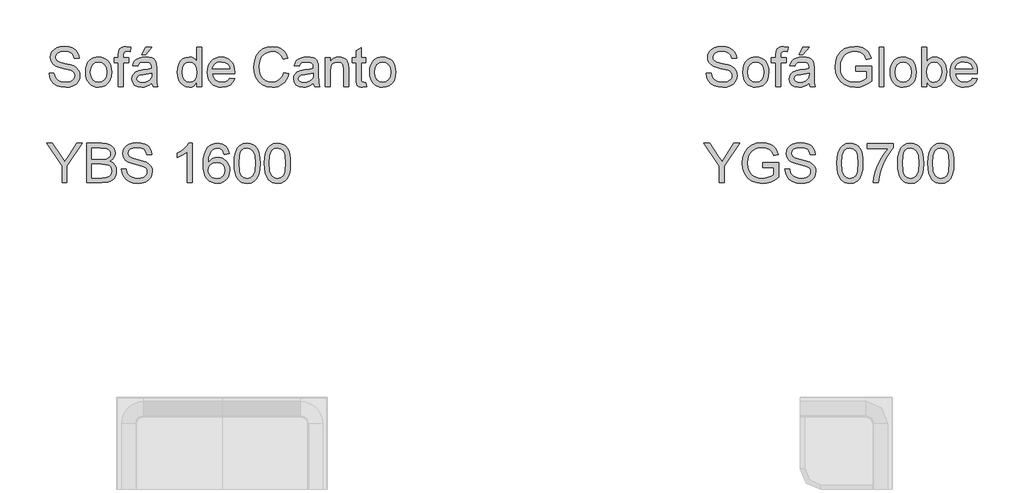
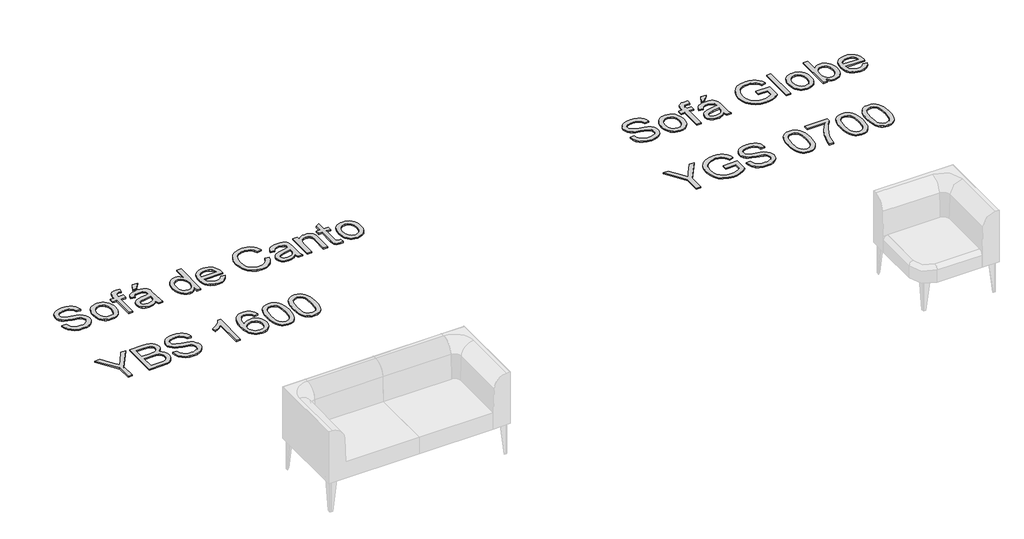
# One storey, part 21 of 26: 2 proxies.
"""IFC4 building model written with IfcOpenShell, lengths in millimetres."""

from ifc_helpers import new_model, si_unit, origin, origin_with_axes, place, context, project, spatial, polyline, outline, extrude, element, save

model = new_model("IFC4")

# Units and contexts
model_context = context("Model", 3, world=origin())
ifc_project = project(units=[si_unit("LENGTHUNIT", "METRE", prefix="MILLI")], contexts=[model_context])

# Site, building, storey
site = spatial("IfcSite", under=ifc_project)
building = spatial("IfcBuilding", under=site)
storey = spatial("IfcBuildingStorey", under=building, Name="Marelli - Linha YOUNG - Planta Baixa", Elevation=0.0)

# Proxies
placement = place(None, origin())
element("IfcBuildingElementProxy", 1, Name="300mm Arial", ObjectType="300mm Arial", at=placement, inside=storey, context=model_context, shape_type="SweptSolid", body=[
    extrude(outline(polyline([(39585.7785887, 188.9537033), (39623.449705, 188.9537033), (39627.7723184, 168.0488089), (39635.5898108, 151.2457988), (39647.7850989, 137.9100765), (39665.2410996, 127.4070455), (39686.5782553, 120.5920316), (39710.4170086, 118.3203602), (39731.4046764, 120.0402086), (39749.7803821, 125.1997535), (39764.6704059, 133.3667338), (39775.201028, 144.1088881), (39781.4642189, 156.442132), (39783.5519493, 169.3823812), (39781.9884508, 181.9915366), (39777.2979553, 192.8900407), (39767.7698117, 202.1882581), (39751.6933685, 209.9965534), (39696.842163, 224.3807394), (39660.8357127, 233.8996861), (39637.7971028, 242.9587802), (39619.0443181, 255.6323149), (39605.754581, 270.9913882), (39597.835921, 288.7049063), (39595.1963677, 308.4417753), (39598.4613204, 330.505498), (39608.2561786, 351.0792986), (39624.3234247, 368.5169052), (39646.4055415, 381.1720458), (39672.9114392, 388.8699765), (39702.2500283, 391.4359535), (39734.0350327, 388.7504149), (39761.8469115, 380.6937992), (39784.6923834, 367.4316533), (39801.578167, 349.129524), (39812.265139, 326.9278456), (39816.514176, 301.9670522), (39778.8430597, 301.9670522), (39771.9268782, 324.4446421), (39757.505904, 340.6682381), (39734.9731318, 350.4906874), (39703.7215563, 353.7648371), (39671.7342168, 350.5274756), (39649.7900558, 340.8153909), (39637.098127, 326.5231754), (39632.867484, 309.5454213), (39635.8657223, 295.0692648), (39644.8604371, 283.4257997), (39666.1240164, 273.0147392), (39706.3703067, 262.3829495), (39747.9041839, 252.2845888), (39773.0305242, 243.473815), (39794.5056357, 229.8069989), (39809.4876299, 212.9396094), (39818.2892067, 193.0555876), (39821.2230656, 170.3388744), (39817.8477483, 147.1163234), (39807.7217963, 125.2733299), (39791.2590771, 106.47456), (39768.8734577, 92.3846796), (39741.9536927, 83.5831028), (39711.8885366, 80.6492439), (39674.9807754, 83.8130291), (39644.6029197, 93.3043846), (39620.4054814, 109.1600986), (39602.0389728, 131.4169593), (39590.2483549, 158.5298623), (39585.7785887, 188.9537033)])), origin_with_axes(), (0.0, 0.0, 1.0), 10.0),
    extrude(outline(polyline([(39863.6030714, 196.0170376), (39865.640218, 224.6796436), (39871.7516576, 249.378321), (39881.9373903, 270.11307), (39896.1974162, 286.8838904), (39910.554011, 297.6030521), (39926.400528, 305.2595961), (39943.736967, 309.8535225), (39962.5633281, 311.3848313), (39983.3463616, 309.5201294), (40002.1382337, 303.9260239), (40018.9389446, 294.6025145), (40033.7484942, 281.5496015), (40045.835717, 265.2087431), (40054.4694476, 246.0213978), (40059.6496859, 223.9875656), (40061.376432, 199.1072464), (40058.3230115, 161.049854), (40049.1627498, 132.0791469), (40034.1623614, 110.3833062), (40013.5885608, 94.1505132), (39989.1519993, 84.0245612), (39962.5633281, 80.6492439), (39941.476792, 82.507048), (39922.5101759, 88.0804602), (39905.6634798, 97.3694806), (39890.9367037, 110.3741091), (39878.9782395, 126.8736166), (39870.4364795, 146.6472739), (39865.3114234, 169.6950809), (39863.6030714, 196.0170376)]), holes=[polyline([(39901.2741877, 196.090614), (39905.6335894, 161.9971501), (39918.7117943, 137.7077414), (39938.393481, 123.1672055), (39962.5633281, 118.3203602), (39986.6228106, 123.1947967), (40006.2677091, 137.818106), (40019.3459141, 162.4294115), (40023.7053157, 197.2678364), (40019.3183229, 230.3680189), (40006.1573445, 254.3263339), (39986.4848548, 268.8668697), (39962.5633281, 273.713715), (39938.393481, 268.8852638), (39918.7117943, 254.3999103), (39905.6335894, 230.1656838), (39901.2741877, 196.090614)])]), origin_with_axes(), (0.0, 0.0, 1.0), 10.0),
    extrude(outline(polyline([(40113.1742169, 85.3581335), (40113.1742169, 269.0048255), (40080.2119902, 269.0048255), (40080.2119902, 306.6759418), (40113.1742169, 306.6759418), (40113.1742169, 328.9695907), (40117.1473425, 360.3867131), (40124.7257116, 372.913095), (40136.424359, 382.8275148), (40152.7951078, 389.2838438), (40174.3897809, 391.4359535), (40208.7499593, 387.3156751), (40203.2317294, 351.9990036), (40181.5266916, 353.7648371), (40167.206885, 352.2013387), (40157.798303, 347.5108432), (40152.5835757, 338.5529166), (40150.8453332, 324.1871247), (40150.8453332, 306.6759418), (40193.2253391, 306.6759418), (40193.2253391, 269.0048255), (40150.8453332, 269.0048255), (40150.8453332, 85.3581335), (40113.1742169, 85.3581335)])), origin_with_axes(), (0.0, 0.0, 1.0), 10.0),
    extrude(outline(polyline([(40367.454252, 113.6114707), (40349.4556254, 98.178821), (40330.9235699, 88.0804602), (40311.4350212, 82.507048), (40290.566915, 80.6492439), (40259.0854133, 85.1190102), (40235.8628623, 98.5283089), (40221.5430557, 118.8905773), (40216.7697868, 144.2192527), (40218.5724086, 159.8358434), (40223.9802739, 174.0176943), (40232.3219981, 186.1578001), (40242.9261966, 195.6491556), (40269.3033357, 208.0099907), (40301.8976805, 213.6753734), (40340.4149254, 219.6350617), (40367.2335228, 226.6248196), (40367.454252, 235.0125291), (40364.8606839, 251.8247363), (40357.0799797, 262.8244079), (40339.6791614, 270.9913882), (40315.4357379, 273.713715), (40292.9949362, 271.9018962), (40277.3231632, 266.4664397), (40266.6361912, 256.4140642), (40259.1497926, 240.7514882), (40221.4786763, 245.4603778), (40228.0177788, 266.0617695), (40237.7758487, 282.2485773), (40251.663394, 294.6278064), (40270.5909227, 303.8064622), (40293.7398972, 309.490239), (40320.2917802, 311.3848313), (40345.7584113, 309.7109682), (40365.9459358, 304.689379), (40381.1670534, 297.138601), (40391.7344637, 287.8771718), (40398.7426157, 276.4268447), (40403.2859583, 262.3093731), (40405.1253683, 229.3471464), (40405.1253683, 182.4789802), (40407.0383547, 117.0327733), (40414.5431474, 85.3581335), (40376.8720311, 85.3581335), (40367.454252, 113.6114707)]), holes=[polyline([(40367.454252, 188.9537033), (40306.6801464, 177.4022087), (40274.2697426, 171.2953675), (40259.591251, 161.3625537), (40254.4409031, 146.8680031), (40257.2460033, 135.6659963), (40265.6613039, 126.4873405), (40279.502864, 120.3621053), (40298.5867425, 118.3203602), (40318.8202522, 120.5736375), (40336.6993172, 127.3334691), (40351.1938678, 137.2938741), (40361.2738345, 149.1488714), (40365.7436007, 161.3625537), (40367.2335228, 178.2851254), (40367.454252, 188.9537033)])]), origin_with_axes(), (0.0, 0.0, 1.0), 10.0),
    extrude(outline(polyline([(40292.1120194, 330.2203895), (40320.3653566, 386.7270639), (40367.454252, 386.7270639), (40320.3653566, 330.2203895), (40292.1120194, 330.2203895)])), origin_with_axes(), (0.0, 0.0, 1.0), 10.0),
    extrude(outline(polyline([(40711.2031883, 85.3581335), (40711.2031883, 120.8955342), (40699.9322037, 103.2877822), (40686.2791831, 90.7108165), (40670.2441267, 83.1646371), (40651.8270343, 80.6492439), (40627.4732462, 84.2912757), (40605.1795973, 95.2173709), (40586.3072509, 112.6641746), (40572.2173705, 135.8683314), (40563.4433849, 163.8917424), (40560.5187231, 195.7963084), (40563.2134587, 227.3054013), (40571.2976655, 255.7610736), (40584.7621466, 279.5446446), (40603.5977047, 297.0374335), (40626.3787973, 307.7979819), (40651.6798815, 311.3848313), (40670.1107694, 308.8188544), (40686.4079418, 301.1209236), (40700.2219107, 289.3211086), (40711.2031883, 274.449479), (40711.2031883, 386.7270639), (40748.8743046, 386.7270639), (40748.8743046, 85.3581335), (40711.2031883, 85.3581335)]), holes=[polyline([(40598.1898394, 195.9434612), (40602.4388764, 161.8683914), (40615.1859876, 137.634165), (40633.708846, 123.1488114), (40655.285125, 118.3203602), (40676.852207, 122.9280822), (40694.9060159, 136.7512482), (40707.1288952, 160.0473755), (40711.2031883, 193.0739817), (40707.0553188, 229.1815995), (40694.6117103, 254.2159693), (40676.0980489, 268.8392786), (40653.7400207, 273.713715), (40631.9430124, 269.0324166), (40614.0823416, 254.9885214), (40602.1629649, 230.8646596), (40598.1898394, 195.9434612)])]), origin_with_axes(), (0.0, 0.0, 1.0), 10.0),
    extrude(outline(polyline([(40960.3328754, 151.282587), (40997.2682277, 146.5736975), (40983.9600966, 118.7434245), (40962.7241084, 97.9396977), (40934.0385098, 84.9718574), (40898.3815474, 80.6492439), (40875.0072452, 82.5139458), (40854.1805257, 88.1080514), (40835.9013891, 97.4315607), (40820.1698353, 110.4844737), (40807.5192932, 126.903507), (40798.4831917, 146.3253771), (40793.0615307, 168.750084), (40791.2543104, 194.1776276), (40793.0799248, 220.4673947), (40798.5567681, 243.6393619), (40807.6848401, 263.6935292), (40820.4641409, 280.6298965), (40836.154308, 294.0851805), (40854.0149788, 303.6960976), (40874.0461535, 309.4626479), (40896.2478319, 311.3848313), (40917.7344397, 309.4672464), (40937.1655068, 303.7144917), (40954.5410333, 294.1265672), (40969.8610191, 280.7034729), (40982.3667077, 263.8038938), (40991.2993424, 243.7865147), (40996.6589232, 220.6513357), (40998.4454501, 194.3983568), (40998.2247209, 184.2448138), (40828.9254268, 184.2448138), (40835.4461351, 156.0466588), (40850.5936763, 135.3165084), (40872.4550638, 122.5693973), (40899.1173114, 118.3203602), (40919.1668802, 120.2885289), (40936.0526637, 126.1930349), (40949.7746622, 136.4017603), (40960.3328754, 151.282587)]), holes=[polyline([(40828.9254268, 221.9159301), (40960.7743338, 221.9159301), (40955.6791682, 241.818346), (40945.691172, 256.0553792), (40923.7286169, 269.2991311), (40896.1006791, 273.713715), (40870.7076244, 270.1912449), (40849.7107595, 259.6238346), (40835.1150413, 243.1519182), (40828.9254268, 221.9159301)])]), origin_with_axes(), (0.0, 0.0, 1.0), 10.0),
    extrude(outline(polyline([(41370.4477237, 192.4853705), (41408.11884, 182.7732858), (41400.664631, 159.3461005), (41390.7364157, 138.8757667), (41378.3341939, 121.3622845), (41363.4579657, 106.8056538), (41346.4434235, 95.3622245), (41327.6262594, 87.1883464), (41307.0064736, 82.2840195), (41284.584066, 80.6492439), (41240.888882, 85.5972568), (41206.1884128, 100.4412953), (41179.5905446, 124.6663247), (41160.2031634, 157.7573101), (41148.3665602, 196.6608311), (41144.4210258, 238.3234671), (41148.881595, 282.2669714), (41162.2633026, 320.2139992), (41183.8671728, 350.9597369), (41212.9942297, 373.2993711), (41247.5383491, 386.9018079), (41285.3934064, 391.4359535), (41326.6973574, 385.5682356), (41344.6660936, 378.2335884), (41360.8460036, 367.9650822), (41374.9703729, 355.03403), (41386.7724872, 339.7117449), (41403.4099504, 301.8934758), (41365.7388341, 292.9171551), (41352.6790233, 320.3887431), (41334.8367465, 339.2334983), (41311.9912746, 350.1320024), (41283.9218784, 353.7648371), (41251.5666569, 349.7365293), (41224.9871828, 337.6516058), (41204.8180524, 318.7792594), (41191.6938622, 294.3886831), (41184.4925721, 266.8159276), (41182.0921421, 238.3970435), (41184.9340305, 203.5954067), (41193.4596958, 173.5026595), (41207.9910346, 149.2684331), (41228.8499437, 132.0423587), (41253.8567223, 121.7508598), (41280.8316696, 118.3203602), (41312.2763832, 122.9924616), (41338.4787783, 137.0087656), (41358.2616326, 160.2221195), (41370.4477237, 192.4853705)])), origin_with_axes(), (0.0, 0.0, 1.0), 10.0),
    extrude(outline(polyline([(41596.4744215, 113.6114707), (41578.4757949, 98.178821), (41559.9437394, 88.0804602), (41540.4551907, 82.507048), (41519.5870845, 80.6492439), (41488.1055828, 85.1190102), (41464.8830318, 98.5283089), (41450.5632252, 118.8905773), (41445.7899563, 144.2192527), (41447.592578, 159.8358434), (41453.0004434, 174.0176943), (41461.3421676, 186.1578001), (41471.9463661, 195.6491556), (41498.3235052, 208.0099907), (41530.91785, 213.6753734), (41569.4350948, 219.6350617), (41596.2536923, 226.6248196), (41596.4744215, 235.0125291), (41593.8808534, 251.8247363), (41586.1001492, 262.8244079), (41568.6993309, 270.9913882), (41544.4559074, 273.713715), (41522.0151057, 271.9018962), (41506.3433327, 266.4664397), (41495.6563607, 256.4140642), (41488.1699621, 240.7514882), (41450.4988458, 245.4603778), (41457.0379483, 266.0617695), (41466.7960182, 282.2485773), (41480.6835635, 294.6278064), (41499.6110922, 303.8064622), (41522.7600667, 309.490239), (41549.3119497, 311.3848313), (41574.7785808, 309.7109682), (41594.9661053, 304.689379), (41610.1872229, 297.138601), (41620.7546332, 287.8771718), (41627.7627852, 276.4268447), (41632.3061278, 262.3093731), (41634.1455378, 229.3471464), (41634.1455378, 182.4789802), (41636.0585242, 117.0327733), (41643.5633169, 85.3581335), (41605.8922006, 85.3581335), (41596.4744215, 113.6114707)]), holes=[polyline([(41596.4744215, 188.9537033), (41535.7003159, 177.4022087), (41503.2899121, 171.2953675), (41488.6114205, 161.3625537), (41483.4610726, 146.8680031), (41486.2661728, 135.6659963), (41494.6814734, 126.4873405), (41508.5230335, 120.3621053), (41527.606912, 118.3203602), (41547.8404217, 120.5736375), (41565.7194867, 127.3334691), (41580.2140373, 137.2938741), (41590.294004, 149.1488714), (41594.7637702, 161.3625537), (41596.2536923, 178.2851254), (41596.4744215, 188.9537033)])]), origin_with_axes(), (0.0, 0.0, 1.0), 10.0),
    extrude(outline(polyline([(41685.9433227, 85.3581335), (41685.9433227, 306.6759418), (41723.614439, 306.6759418), (41723.614439, 275.7738542), (41736.701841, 291.3536567), (41752.4195992, 302.482087), (41770.7677138, 309.1591452), (41791.7461845, 311.3848313), (41810.3150282, 309.5914066), (41827.3203735, 304.2111324), (41841.5022244, 295.9153934), (41851.6005851, 285.3755742), (41862.8945624, 257.67406), (41864.8811252, 221.2537425), (41864.8811252, 85.3581335), (41827.2100089, 85.3581335), (41827.2100089, 216.176971), (41822.8690013, 249.5070797), (41816.8633278, 259.4306965), (41807.5283221, 267.1286273), (41795.5629602, 272.0674431), (41781.6662179, 273.713715), (41759.6024952, 270.0165009), (41740.7945282, 258.9248588), (41733.2782392, 249.8703632), (41727.9094613, 237.4957326), (41723.614439, 202.7860663), (41723.614439, 85.3581335), (41685.9433227, 85.3581335)])), origin_with_axes(), (0.0, 0.0, 1.0), 10.0),
    extrude(outline(polyline([(41996.7300322, 116.7752559), (42001.4389218, 84.2544875), (41973.259161, 80.6492439), (41955.1777609, 82.2127424), (41941.6948858, 86.9032378), (41932.1667421, 94.1321191), (41925.9495364, 103.3107748), (41922.5282338, 119.0745183), (41921.3877996, 146.0586627), (41921.3877996, 269.0048255), (41893.1344624, 269.0048255), (41893.1344624, 306.6759418), (41921.3877996, 306.6759418), (41921.3877996, 360.4602895), (41959.0589159, 382.6067856), (41959.0589159, 306.6759418), (41996.7300322, 306.6759418), (41996.7300322, 269.0048255), (41959.0589159, 269.0048255), (41959.0589159, 147.1623087), (41961.0454787, 127.7381393), (41967.4834136, 120.858746), (41980.3224953, 118.3203602), (41996.7300322, 116.7752559)])), origin_with_axes(), (0.0, 0.0, 1.0), 10.0),
    extrude(outline(polyline([(42024.9833695, 196.0170376), (42027.020516, 224.6796436), (42033.1319557, 249.378321), (42043.3176884, 270.11307), (42057.5777142, 286.8838904), (42071.9343091, 297.6030521), (42087.780826, 305.2595961), (42105.1172651, 309.8535225), (42123.9436262, 311.3848313), (42144.7266596, 309.5201294), (42163.5185318, 303.9260239), (42180.3192427, 294.6025145), (42195.1287922, 281.5496015), (42207.216015, 265.2087431), (42215.8497456, 246.0213978), (42221.029984, 223.9875656), (42222.7567301, 199.1072464), (42219.7033095, 161.049854), (42210.5430478, 132.0791469), (42195.5426595, 110.3833062), (42174.9688589, 94.1505132), (42150.5322974, 84.0245612), (42123.9436262, 80.6492439), (42102.8570901, 82.507048), (42083.890474, 88.0804602), (42067.0437778, 97.3694806), (42052.3170017, 110.3741091), (42040.3585376, 126.8736166), (42031.8167775, 146.6472739), (42026.6917215, 169.6950809), (42024.9833695, 196.0170376)]), holes=[polyline([(42062.6544858, 196.090614), (42067.0138874, 161.9971501), (42080.0920924, 137.7077414), (42099.7737791, 123.1672055), (42123.9436262, 118.3203602), (42148.0031087, 123.1947967), (42167.6480072, 137.818106), (42180.7262121, 162.4294115), (42185.0856138, 197.2678364), (42180.698621, 230.3680189), (42167.5376426, 254.3263339), (42147.8651529, 268.8668697), (42123.9436262, 273.713715), (42099.7737791, 268.8852638), (42080.0920924, 254.3999103), (42067.0138874, 230.1656838), (42062.6544858, 196.090614)])]), origin_with_axes(), (0.0, 0.0, 1.0), 10.0),
    extrude(outline(polyline([(39684.665269, -646.4907736), (39684.665269, -518.8357213), (39566.9430305, -345.1218432), (39611.3831755, -345.1218432), (39674.2174203, -437.9016823), (39706.3703067, -485.2113069), (39738.5967694, -434.517168), (39795.6184787, -345.1218432), (39840.0586237, -345.1218432), (39722.3363853, -518.8357213), (39722.3363853, -646.4907736), (39684.665269, -646.4907736)])), origin_with_axes(), (0.0, 0.0, 1.0), 10.0),
    extrude(outline(polyline([(39873.0208505, -646.4907736), (39873.0208505, -345.1218432), (39988.0207622, -345.1218432), (40019.6494167, -347.3383322), (40044.3434956, -353.9877992), (40063.2710243, -365.2357912), (40077.600028, -381.2478551), (40086.6223339, -400.0834132), (40089.6297692, -419.8018882), (40087.1005805, -437.9476676), (40079.5130144, -455.0081951), (40066.8118885, -469.9350071), (40048.9420206, -481.6796398), (40070.2883734, -492.8264642), (40086.0613139, -509.7858242), (40095.8009897, -531.4356796), (40099.0475483, -556.6539904), (40096.8310593, -577.6692494), (40090.1815922, -597.1577981), (40080.2579754, -613.7308819), (40068.2190371, -625.9997465), (40053.4761662, -634.8840967), (40035.4407514, -641.3036375), (39987.1378454, -646.4907736), (39873.0208505, -646.4907736)]), holes=[polyline([(39910.6919668, -467.5529711), (39979.4858999, -467.5529711), (40019.6586138, -464.3156096), (40033.720903, -458.7330003), (40043.8284608, -450.372882), (40049.9261049, -439.3640133), (40051.9586529, -425.8351529), (40050.0640607, -412.7017657), (40044.3802838, -401.2606356), (40035.1648399, -392.3303002), (40022.6752461, -386.7292968), (39974.2619756, -382.7929595), (39910.6919668, -382.7929595), (39910.6919668, -467.5529711)]), polyline([(39910.6919668, -608.8196573), (39987.9471858, -608.8196573), (40015.9062174, -607.3481293), (40039.5610297, -599.1443608), (40055.2328027, -582.40573), (40059.8405247, -570.5783239), (40061.376432, -557.0218724), (40059.5738102, -541.276523), (40054.1659449, -527.7384656), (40044.7205747, -517.1526611), (40030.8054382, -510.2640708), (40011.0961603, -506.4840833), (39984.2683658, -505.2240875), (39910.6919668, -505.2240875), (39910.6919668, -608.8196573)])]), origin_with_axes(), (0.0, 0.0, 1.0), 10.0),
    extrude(outline(polyline([(40136.7186646, -542.8952038), (40174.3897809, -542.8952038), (40178.7123944, -563.8000981), (40186.5298868, -580.6031083), (40198.7251749, -593.9388306), (40216.1811756, -604.4418616), (40237.5183313, -611.2568755), (40261.3570846, -613.5285468), (40282.3447524, -611.8086985), (40300.7204581, -606.6491535), (40315.6104818, -598.4821732), (40326.1411039, -587.740019), (40332.4042949, -575.4067751), (40334.4920252, -562.4665259), (40332.9285268, -549.8573705), (40328.2380313, -538.9588664), (40318.7098876, -529.660649), (40302.6334445, -521.8523536), (40247.782239, -507.4681676), (40211.7757887, -497.949221), (40188.7371787, -488.8901269), (40169.984394, -476.2165921), (40156.694657, -460.8575188), (40148.775997, -443.1440008), (40146.1364437, -423.4071317), (40149.4013964, -401.3434091), (40159.1962545, -380.7696085), (40175.2635007, -363.3320019), (40197.3456174, -350.6768613), (40223.8515152, -342.9789305), (40253.1901043, -340.4129536), (40284.9751087, -343.0984922), (40312.7869875, -351.1551079), (40335.6324594, -364.4172538), (40352.518243, -382.7193831), (40363.205215, -404.9210615), (40367.454252, -429.8818548), (40329.7831357, -429.8818548), (40322.8669542, -407.4042649), (40308.44598, -391.180669), (40285.9132078, -381.3582197), (40254.6616323, -378.0840699), (40222.6742928, -381.3214315), (40200.7301318, -391.0335162), (40188.038203, -405.3257317), (40183.80756, -422.3034857), (40186.8057983, -436.7796423), (40195.8005131, -448.4231074), (40217.0640924, -458.8341679), (40257.3103826, -469.4659575), (40298.8442599, -479.5643183), (40323.9706002, -488.3750921), (40345.4457116, -502.0419082), (40360.4277059, -518.9092977), (40369.2292826, -538.7933195), (40372.1631415, -561.5100327), (40368.7878242, -584.7325837), (40358.6618723, -606.5755771), (40342.199153, -625.3743471), (40319.8135336, -639.4642275), (40292.8937686, -648.2658042), (40262.8286126, -651.1996631), (40225.9208514, -648.035878), (40195.5429957, -638.5445225), (40171.3455574, -622.6888085), (40152.9790488, -600.4319478), (40141.1884309, -573.3190448), (40136.7186646, -542.8952038)])), origin_with_axes(), (0.0, 0.0, 1.0), 10.0),
    extrude(outline(polyline([(40673.532072, -646.4907736), (40635.8609557, -646.4907736), (40635.8609557, -411.6349079), (40600.1764022, -437.0555537), (40560.5187231, -456.0750529), (40560.5187231, -420.4640758), (40590.1056325, -404.3692385), (40615.7378105, -385.2209806), (40635.9437291, -364.8587122), (40649.2518603, -345.1218432), (40673.532072, -345.1218432), (40673.532072, -646.4907736)])), origin_with_axes(), (0.0, 0.0, 1.0), 10.0),
    extrude(outline(polyline([(40956.0654443, -425.1729653), (40918.394328, -429.8818548), (40912.3242751, -411.2118436), (40904.1205066, -398.4647325), (40887.0323879, -386.7109027), (40866.3758139, -382.7929595), (40848.8646309, -385.0738278), (40832.3835175, -391.9164329), (40818.2292577, -406.3282101), (40806.668566, -426.1662467), (40798.8602707, -454.2264459), (40795.9632, -493.3047108), (40811.0739529, -475.6739662), (40829.1829442, -463.2487518), (40849.2784981, -455.8819149), (40870.3489394, -453.4263025), (40888.4487336, -455.1047641), (40905.1505762, -460.1401489), (40920.4544672, -468.532457), (40934.3604066, -480.2816882), (40945.9164997, -494.6888668), (40954.170852, -511.0550171), (40959.1234634, -529.380139), (40960.7743338, -549.6642325), (40957.665731, -576.6391798), (40948.3399224, -601.6459584), (40933.5694603, -622.8543554), (40914.1268968, -638.4341579), (40890.8951488, -648.0082868), (40864.7571331, -651.1996631), (40842.3002365, -649.0843417), (40822.0184423, -642.7383773), (40803.9117503, -632.1617699), (40787.9801607, -617.3545196), (40774.991627, -597.6912269), (40765.7141029, -572.5464926), (40760.1475885, -541.9203165), (40758.2920837, -505.8126986), (40760.3522229, -465.3318836), (40766.5326404, -430.7831657), (40776.8333362, -402.166545), (40791.2543104, -379.4820215), (40806.8846967, -364.4494435), (40825.0074835, -353.7118877), (40845.6226708, -347.2693543), (40868.7302586, -345.1218432), (40901.7844559, -350.437738), (40928.2535655, -366.3854225), (40946.794818, -391.7140978), (40956.0654443, -425.1729653)]), holes=[polyline([(40795.9632, -549.0756213), (40798.1429008, -565.7682668), (40804.6820033, -581.7067543), (40814.8355463, -595.4103586), (40827.858569, -605.3983547), (40843.5763272, -611.4959988), (40861.8140771, -613.5285468), (40886.6737029, -609.316298), (40906.2174339, -596.6795515), (40918.8817716, -576.8139237), (40923.1032175, -550.9150313), (40918.9369539, -526.0554054), (40906.4381631, -507.1002856), (40886.5633383, -495.0981355), (40860.2689727, -491.0974188), (40835.4461351, -495.0981355), (40814.6883935, -507.1002856), (40800.6444984, -525.5955529), (40795.9632, -549.0756213)])]), origin_with_axes(), (0.0, 0.0, 1.0), 10.0),
    extrude(outline(polyline([(40993.7365606, -498.2343295), (40996.5048726, -449.9958029), (41004.8098086, -411.5245433), (41018.5685953, -382.2319394), (41037.698459, -361.5293801), (41062.3373556, -349.2237274), (41092.6232409, -345.1218432), (41115.8365948, -347.5498643), (41136.6219275, -354.8339278), (41154.0043518, -366.6889251), (41167.0089803, -382.8297477), (41176.8314296, -403.1184397), (41184.6673161, -427.4170455), (41189.7992699, -458.2731478), (41191.5099212, -498.2343295), (41188.7692003, -546.1969447), (41180.5470377, -584.5762338), (41166.8710246, -613.8964288), (41147.768752, -634.6817616), (41123.074673, -647.0701877), (41092.6232409, -651.1996631), (41071.8746964, -649.4062384), (41053.4805966, -644.0259642), (41037.4409416, -635.0588406), (41023.7557314, -622.5048675), (41010.6223442, -599.8111469), (41001.2413533, -571.5348171), (40995.6127588, -537.675878), (40993.7365606, -498.2343295)]), holes=[polyline([(41031.4076769, -498.1607531), (41035.8222608, -557.4173455), (41041.3404908, -577.6853442), (41049.0660127, -591.7131445), (41068.7844876, -608.0746963), (41092.6232409, -613.5285468), (41116.4619942, -608.0563022), (41136.1804691, -591.6395681), (41143.905991, -577.5887752), (41149.424221, -557.325375), (41153.8388049, -498.1607531), (41149.5713737, -440.237733), (41144.2370848, -420.0364129), (41136.7690803, -405.6752196), (41117.0873936, -388.5135245), (41092.1817825, -382.7929595), (41068.6005466, -387.8329428), (41049.6546239, -402.9528928), (41041.6715846, -418.5878776), (41035.9694136, -439.6675159), (41031.4076769, -498.1607531)])]), origin_with_axes(), (0.0, 0.0, 1.0), 10.0),
    extrude(outline(polyline([(41224.472148, -498.2343295), (41227.24046, -449.9958029), (41235.545396, -411.5245433), (41249.3041826, -382.2319394), (41268.4340464, -361.5293801), (41293.072943, -349.2237274), (41323.3588283, -345.1218432), (41346.5721822, -347.5498643), (41367.3575149, -354.8339278), (41384.7399392, -366.6889251), (41397.7445677, -382.8297477), (41407.567017, -403.1184397), (41415.4029035, -427.4170455), (41420.5348573, -458.2731478), (41422.2455086, -498.2343295), (41419.5047877, -546.1969447), (41411.2826251, -584.5762338), (41397.6066119, -613.8964288), (41378.5043393, -634.6817616), (41353.8102604, -647.0701877), (41323.3588283, -651.1996631), (41302.6102837, -649.4062384), (41284.216184, -644.0259642), (41268.176529, -635.0588406), (41254.4913188, -622.5048675), (41241.3579315, -599.8111469), (41231.9769407, -571.5348171), (41226.3483461, -537.675878), (41224.472148, -498.2343295)]), holes=[polyline([(41262.1432643, -498.1607531), (41266.5578482, -557.4173455), (41272.0760781, -577.6853442), (41279.8016, -591.7131445), (41299.520075, -608.0746963), (41323.3588283, -613.5285468), (41347.1975816, -608.0563022), (41366.9160565, -591.6395681), (41374.6415784, -577.5887752), (41380.1598083, -557.325375), (41384.5743923, -498.1607531), (41380.3069611, -440.237733), (41374.9726722, -420.0364129), (41367.5046677, -405.6752196), (41347.822981, -388.5135245), (41322.9173699, -382.7929595), (41299.336134, -387.8329428), (41280.3902112, -402.9528928), (41272.4071719, -418.5878776), (41266.705001, -439.6675159), (41262.1432643, -498.1607531)])]), origin_with_axes(), (0.0, 0.0, 1.0), 10.0),
])
element("IfcBuildingElementProxy", 2, Name="300mm Arial", ObjectType="300mm Arial", at=placement, inside=storey, context=model_context, shape_type="SweptSolid", body=[
    extrude(outline(polyline([(44585.7785887, 188.9537033), (44623.449705, 188.9537033), (44627.7723184, 168.0488089), (44635.5898108, 151.2457988), (44647.7850989, 137.9100765), (44665.2410996, 127.4070455), (44686.5782553, 120.5920316), (44710.4170086, 118.3203602), (44731.4046764, 120.0402086), (44749.7803821, 125.1997535), (44764.6704059, 133.3667338), (44775.201028, 144.1088881), (44781.4642189, 156.442132), (44783.5519493, 169.3823812), (44781.9884508, 181.9915366), (44777.2979553, 192.8900407), (44767.7698117, 202.1882581), (44751.6933685, 209.9965534), (44696.842163, 224.3807394), (44660.8357127, 233.8996861), (44637.7971028, 242.9587802), (44619.0443181, 255.6323149), (44605.754581, 270.9913882), (44597.835921, 288.7049063), (44595.1963677, 308.4417753), (44598.4613204, 330.505498), (44608.2561786, 351.0792986), (44624.3234247, 368.5169052), (44646.4055415, 381.1720458), (44672.9114392, 388.8699765), (44702.2500283, 391.4359535), (44734.0350327, 388.7504149), (44761.8469115, 380.6937992), (44784.6923834, 367.4316533), (44801.578167, 349.129524), (44812.265139, 326.9278456), (44816.514176, 301.9670522), (44778.8430597, 301.9670522), (44771.9268782, 324.4446421), (44757.505904, 340.6682381), (44734.9731318, 350.4906874), (44703.7215563, 353.7648371), (44671.7342168, 350.5274756), (44649.7900558, 340.8153909), (44637.098127, 326.5231754), (44632.867484, 309.5454213), (44635.8657223, 295.0692648), (44644.8604371, 283.4257997), (44666.1240164, 273.0147392), (44706.3703067, 262.3829495), (44747.9041839, 252.2845888), (44773.0305242, 243.473815), (44794.5056357, 229.8069989), (44809.4876299, 212.9396094), (44818.2892067, 193.0555876), (44821.2230656, 170.3388744), (44817.8477483, 147.1163234), (44807.7217963, 125.2733299), (44791.2590771, 106.47456), (44768.8734577, 92.3846796), (44741.9536927, 83.5831028), (44711.8885366, 80.6492439), (44674.9807754, 83.8130291), (44644.6029197, 93.3043846), (44620.4054814, 109.1600986), (44602.0389728, 131.4169593), (44590.2483549, 158.5298623), (44585.7785887, 188.9537033)])), origin_with_axes(), (0.0, 0.0, 1.0), 10.0),
    extrude(outline(polyline([(44863.6030714, 196.0170376), (44865.640218, 224.6796436), (44871.7516576, 249.378321), (44881.9373903, 270.11307), (44896.1974162, 286.8838904), (44910.554011, 297.6030521), (44926.400528, 305.2595961), (44943.736967, 309.8535225), (44962.5633281, 311.3848313), (44983.3463616, 309.5201294), (45002.1382337, 303.9260239), (45018.9389446, 294.6025145), (45033.7484942, 281.5496015), (45045.835717, 265.2087431), (45054.4694476, 246.0213978), (45059.6496859, 223.9875656), (45061.376432, 199.1072464), (45058.3230115, 161.049854), (45049.1627498, 132.0791469), (45034.1623614, 110.3833062), (45013.5885608, 94.1505132), (44989.1519993, 84.0245612), (44962.5633281, 80.6492439), (44941.476792, 82.507048), (44922.5101759, 88.0804602), (44905.6634798, 97.3694806), (44890.9367037, 110.3741091), (44878.9782395, 126.8736166), (44870.4364795, 146.6472739), (44865.3114234, 169.6950809), (44863.6030714, 196.0170376)]), holes=[polyline([(44901.2741877, 196.090614), (44905.6335894, 161.9971501), (44918.7117943, 137.7077414), (44938.393481, 123.1672055), (44962.5633281, 118.3203602), (44986.6228106, 123.1947967), (45006.2677091, 137.818106), (45019.3459141, 162.4294115), (45023.7053157, 197.2678364), (45019.3183229, 230.3680189), (45006.1573445, 254.3263339), (44986.4848548, 268.8668697), (44962.5633281, 273.713715), (44938.393481, 268.8852638), (44918.7117943, 254.3999103), (44905.6335894, 230.1656838), (44901.2741877, 196.090614)])]), origin_with_axes(), (0.0, 0.0, 1.0), 10.0),
    extrude(outline(polyline([(45113.1742169, 85.3581335), (45113.1742169, 269.0048255), (45080.2119902, 269.0048255), (45080.2119902, 306.6759418), (45113.1742169, 306.6759418), (45113.1742169, 328.9695907), (45117.1473425, 360.3867131), (45124.7257116, 372.913095), (45136.424359, 382.8275148), (45152.7951078, 389.2838438), (45174.3897809, 391.4359535), (45208.7499593, 387.3156751), (45203.2317294, 351.9990036), (45181.5266916, 353.7648371), (45167.206885, 352.2013387), (45157.798303, 347.5108432), (45152.5835757, 338.5529166), (45150.8453332, 324.1871247), (45150.8453332, 306.6759418), (45193.2253391, 306.6759418), (45193.2253391, 269.0048255), (45150.8453332, 269.0048255), (45150.8453332, 85.3581335), (45113.1742169, 85.3581335)])), origin_with_axes(), (0.0, 0.0, 1.0), 10.0),
    extrude(outline(polyline([(45367.454252, 113.6114707), (45349.4556254, 98.178821), (45330.9235699, 88.0804602), (45311.4350212, 82.507048), (45290.566915, 80.6492439), (45259.0854133, 85.1190102), (45235.8628623, 98.5283089), (45221.5430557, 118.8905773), (45216.7697868, 144.2192527), (45218.5724086, 159.8358434), (45223.9802739, 174.0176943), (45232.3219981, 186.1578001), (45242.9261966, 195.6491556), (45269.3033357, 208.0099907), (45301.8976805, 213.6753734), (45340.4149254, 219.6350617), (45367.2335228, 226.6248196), (45367.454252, 235.0125291), (45364.8606839, 251.8247363), (45357.0799797, 262.8244079), (45339.6791614, 270.9913882), (45315.4357379, 273.713715), (45292.9949362, 271.9018962), (45277.3231632, 266.4664397), (45266.6361912, 256.4140642), (45259.1497926, 240.7514882), (45221.4786763, 245.4603778), (45228.0177788, 266.0617695), (45237.7758487, 282.2485773), (45251.663394, 294.6278064), (45270.5909227, 303.8064622), (45293.7398972, 309.490239), (45320.2917802, 311.3848313), (45345.7584113, 309.7109682), (45365.9459358, 304.689379), (45381.1670534, 297.138601), (45391.7344637, 287.8771718), (45398.7426157, 276.4268447), (45403.2859583, 262.3093731), (45405.1253683, 229.3471464), (45405.1253683, 182.4789802), (45407.0383547, 117.0327733), (45414.5431474, 85.3581335), (45376.8720311, 85.3581335), (45367.454252, 113.6114707)]), holes=[polyline([(45367.454252, 188.9537033), (45306.6801464, 177.4022087), (45274.2697426, 171.2953675), (45259.591251, 161.3625537), (45254.4409031, 146.8680031), (45257.2460033, 135.6659963), (45265.6613039, 126.4873405), (45279.502864, 120.3621053), (45298.5867425, 118.3203602), (45318.8202522, 120.5736375), (45336.6993172, 127.3334691), (45351.1938678, 137.2938741), (45361.2738345, 149.1488714), (45365.7436007, 161.3625537), (45367.2335228, 178.2851254), (45367.454252, 188.9537033)])]), origin_with_axes(), (0.0, 0.0, 1.0), 10.0),
    extrude(outline(polyline([(45292.1120194, 330.2203895), (45320.3653566, 386.7270639), (45367.454252, 386.7270639), (45320.3653566, 330.2203895), (45292.1120194, 330.2203895)])), origin_with_axes(), (0.0, 0.0, 1.0), 10.0),
    extrude(outline(polyline([(45720.6209674, 203.0803719), (45720.6209674, 240.7514882), (45843.0520954, 240.7514882), (45843.0520954, 128.1060213), (45813.299639, 107.4126591), (45782.6090836, 92.5686206), (45751.0540054, 83.6290881), (45718.707981, 80.6492439), (45676.4475368, 85.3857246), (45638.2521887, 99.5951667), (45606.5223666, 122.7809294), (45583.6585006, 154.4463722), (45569.8353346, 192.4301882), (45565.2276126, 234.5710707), (45569.8169405, 277.0154559), (45583.5849242, 316.498391), (45605.9613465, 349.6169677), (45636.3759905, 372.9682773), (45673.4217074, 386.8190344), (45715.6913486, 391.4359535), (45746.7221949, 388.7596119), (45774.6260443, 380.7305874), (45798.1245067, 367.928294), (45815.9391923, 350.9321458), (45829.1185648, 328.9236054), (45838.7110878, 301.0841354), (45803.9830275, 291.2984744), (45796.2299144, 311.1549051), (45786.8029383, 326.1368993), (45774.3317387, 337.4308766), (45757.4459551, 346.2232562), (45737.3136129, 351.8794419), (45715.1027374, 353.7648371), (45689.1026774, 351.7322891), (45666.8734079, 345.6346451), (45648.4977022, 336.2352601), (45634.0583339, 324.2974893), (45614.6709528, 295.2715999), (45605.8417849, 266.8343217), (45602.8987289, 236.1161751), (45606.4395931, 200.0913307), (45617.0621857, 170.449239), (45634.44461, 147.401432), (45658.2649692, 131.1594419), (45686.1412274, 121.5301306), (45715.6913486, 118.3203602), (45741.7833791, 120.7391844), (45767.2316162, 127.9956567), (45789.332127, 137.9928499), (45805.3809791, 148.6338366), (45805.3809791, 203.0803719), (45720.6209674, 203.0803719)])), origin_with_axes(), (0.0, 0.0, 1.0), 10.0),
    extrude(outline(polyline([(45899.5587698, 85.3581335), (45899.5587698, 386.7270639), (45937.2298861, 386.7270639), (45937.2298861, 85.3581335), (45899.5587698, 85.3581335)])), origin_with_axes(), (0.0, 0.0, 1.0), 10.0),
    extrude(outline(polyline([(45984.3187815, 196.0170376), (45986.3559281, 224.6796436), (45992.4673677, 249.378321), (46002.6531005, 270.11307), (46016.9131263, 286.8838904), (46031.2697212, 297.6030521), (46047.1162381, 305.2595961), (46064.4526771, 309.8535225), (46083.2790382, 311.3848313), (46104.0620717, 309.5201294), (46122.8539439, 303.9260239), (46139.6546547, 294.6025145), (46154.4642043, 281.5496015), (46166.5514271, 265.2087431), (46175.1851577, 246.0213978), (46180.365396, 223.9875656), (46182.0921421, 199.1072464), (46179.0387216, 161.049854), (46169.8784599, 132.0791469), (46154.8780715, 110.3833062), (46134.3042709, 94.1505132), (46109.8677094, 84.0245612), (46083.2790382, 80.6492439), (46062.1925021, 82.507048), (46043.225886, 88.0804602), (46026.3791899, 97.3694806), (46011.6524138, 110.3741091), (45999.6939497, 126.8736166), (45991.1521896, 146.6472739), (45986.0271335, 169.6950809), (45984.3187815, 196.0170376)]), holes=[polyline([(46021.9898978, 196.090614), (46026.3492995, 161.9971501), (46039.4275044, 137.7077414), (46059.1091911, 123.1672055), (46083.2790382, 118.3203602), (46107.3385207, 123.1947967), (46126.9834192, 137.818106), (46140.0616242, 162.4294115), (46144.4210258, 197.2678364), (46140.034033, 230.3680189), (46126.8730546, 254.3263339), (46107.200565, 268.8668697), (46083.2790382, 273.713715), (46059.1091911, 268.8852638), (46039.4275044, 254.3999103), (46026.3492995, 230.1656838), (46021.9898978, 196.090614)])]), origin_with_axes(), (0.0, 0.0, 1.0), 10.0),
    extrude(outline(polyline([(46262.1432643, 85.3581335), (46224.472148, 85.3581335), (46224.472148, 386.7270639), (46262.1432643, 386.7270639), (46262.1432643, 274.9645138), (46274.5316905, 290.8984027), (46288.5204033, 302.2797519), (46304.1094029, 309.1085615), (46321.2986891, 311.3848313), (46340.7044643, 309.3338892), (46359.0433818, 303.1810628), (46375.2669778, 293.3126283), (46388.3267886, 280.1148617), (46398.5631051, 263.7165218), (46406.3162182, 244.2463672), (46411.1998517, 222.5137383), (46412.8277295, 199.3279756), (46411.1423701, 172.5737575), (46406.0862919, 149.0385068), (46397.659495, 128.7222236), (46385.8619793, 111.6249079), (46371.7008217, 98.0730549), (46356.1830993, 88.3931599), (46339.308812, 82.5852229), (46321.0779599, 80.6492439), (46303.3230551, 83.146243), (46287.5823042, 90.6372401), (46273.8557073, 103.1222353), (46262.1432643, 120.6012286), (46262.1432643, 85.3581335)]), holes=[polyline([(46262.1432643, 197.562142), (46264.7184382, 166.1450196), (46272.4439601, 144.8814403), (46281.5720321, 133.2609678), (46292.1808292, 124.9606302), (46304.2703512, 119.9804277), (46317.8405983, 118.3203602), (46339.5824243, 123.2131908), (46358.160465, 137.8916824), (46370.9075761, 162.2638646), (46375.1566132, 196.2377668), (46371.0823201, 230.7083098), (46358.8594408, 254.8045804), (46340.8608142, 268.9864314), (46319.4592791, 273.713715), (46297.7174532, 268.8208845), (46279.1394125, 254.1423929), (46266.3923013, 230.2116691), (46262.1432643, 197.562142)])]), origin_with_axes(), (0.0, 0.0, 1.0), 10.0),
    extrude(outline(polyline([(46610.1596317, 151.282587), (46647.094984, 146.5736975), (46633.7868529, 118.7434245), (46612.5508647, 97.9396977), (46583.8652661, 84.9718574), (46548.2083037, 80.6492439), (46524.8340015, 82.5139458), (46504.007282, 88.1080514), (46485.7281454, 97.4315607), (46469.9965915, 110.4844737), (46457.3460494, 126.903507), (46448.3099479, 146.3253771), (46442.888287, 168.750084), (46441.0810667, 194.1776276), (46442.9066811, 220.4673947), (46448.3835243, 243.6393619), (46457.5115963, 263.6935292), (46470.2908971, 280.6298965), (46485.9810642, 294.0851805), (46503.8417351, 303.6960976), (46523.8729097, 309.4626479), (46546.0745882, 311.3848313), (46567.5611959, 309.4672464), (46586.9922631, 303.7144917), (46604.3677895, 294.1265672), (46619.6877754, 280.7034729), (46632.193464, 263.8038938), (46641.1260987, 243.7865147), (46646.4856795, 220.6513357), (46648.2722064, 194.3983568), (46648.0514772, 184.2448138), (46478.752183, 184.2448138), (46485.2728914, 156.0466588), (46500.4204325, 135.3165084), (46522.2818201, 122.5693973), (46548.9440677, 118.3203602), (46568.9936365, 120.2885289), (46585.87942, 126.1930349), (46599.6014184, 136.4017603), (46610.1596317, 151.282587)]), holes=[polyline([(46478.752183, 221.9159301), (46610.6010901, 221.9159301), (46605.5059245, 241.818346), (46595.5179283, 256.0553792), (46573.5553732, 269.2991311), (46545.9274354, 273.713715), (46520.5343806, 270.1912449), (46499.5375158, 259.6238346), (46484.9417976, 243.1519182), (46478.752183, 221.9159301)])]), origin_with_axes(), (0.0, 0.0, 1.0), 10.0),
    extrude(outline(polyline([(44684.665269, -646.4907736), (44684.665269, -518.8357213), (44566.9430305, -345.1218432), (44611.3831755, -345.1218432), (44674.2174203, -437.9016823), (44706.3703067, -485.2113069), (44738.5967694, -434.517168), (44795.6184787, -345.1218432), (44840.0586237, -345.1218432), (44722.3363853, -518.8357213), (44722.3363853, -646.4907736), (44684.665269, -646.4907736)])), origin_with_axes(), (0.0, 0.0, 1.0), 10.0),
    extrude(outline(polyline([(45014.2875366, -528.7685351), (45014.2875366, -491.0974188), (45136.7186646, -491.0974188), (45136.7186646, -603.7428858), (45106.9662083, -624.436248), (45076.2756528, -639.2802865), (45044.7205747, -648.219819), (45012.3745503, -651.1996631), (44970.1141061, -646.4631825), (44931.9187579, -632.2537404), (44900.1889358, -609.0679776), (44877.3250698, -577.4025349), (44863.5019039, -539.4187189), (44858.8941819, -497.2778364), (44863.4835098, -454.8334512), (44877.2514934, -415.350516), (44899.6279158, -382.2319394), (44930.0425597, -358.8806298), (44967.0882767, -345.0298727), (45009.3579179, -340.4129536), (45040.3887642, -343.0892951), (45068.2926135, -351.1183197), (45091.791076, -363.9206131), (45109.6057616, -380.9167613), (45122.7851341, -402.9253016), (45132.3776571, -430.7647716), (45097.6495967, -440.5504327), (45089.8964837, -420.694002), (45080.4695076, -405.7120078), (45067.9983079, -394.4180305), (45051.1125244, -385.6256508), (45030.9801822, -379.9694651), (45008.7693067, -378.0840699), (44982.7692467, -380.1166179), (44960.5399771, -386.214262), (44942.1642715, -395.613647), (44927.7249032, -407.5514177), (44908.337522, -436.5773072), (44899.5083541, -465.0145854), (44896.5652982, -495.732732), (44900.1061624, -531.7575764), (44910.728755, -561.3996681), (44928.1111793, -584.4474751), (44951.9315385, -600.6894652), (44979.8077966, -610.3187764), (45009.3579179, -613.5285468), (45035.4499484, -611.1097227), (45060.8981854, -603.8532504), (45082.9986963, -593.8560571), (45099.0475483, -583.2150704), (45099.0475483, -528.7685351), (45014.2875366, -528.7685351)])), origin_with_axes(), (0.0, 0.0, 1.0), 10.0),
    extrude(outline(polyline([(45183.80756, -542.8952038), (45221.4786763, -542.8952038), (45225.8012898, -563.8000981), (45233.6187822, -580.6031083), (45245.8140703, -593.9388306), (45263.270071, -604.4418616), (45284.6072267, -611.2568755), (45308.44598, -613.5285468), (45329.4336478, -611.8086985), (45347.8093535, -606.6491535), (45362.6993772, -598.4821732), (45373.2299993, -587.740019), (45379.4931903, -575.4067751), (45381.5809206, -562.4665259), (45380.0174221, -549.8573705), (45375.3269267, -538.9588664), (45365.798783, -529.660649), (45349.7223398, -521.8523536), (45294.8711344, -507.4681676), (45258.8646841, -497.949221), (45235.8260741, -488.8901269), (45217.0732894, -476.2165921), (45203.7835523, -460.8575188), (45195.8648924, -443.1440008), (45193.2253391, -423.4071317), (45196.4902918, -401.3434091), (45206.2851499, -380.7696085), (45222.3523961, -363.3320019), (45244.4345128, -350.6768613), (45270.9404106, -342.9789305), (45300.2789997, -340.4129536), (45332.0640041, -343.0984922), (45359.8758829, -351.1551079), (45382.7213548, -364.4172538), (45399.6071384, -382.7193831), (45410.2941103, -404.9210615), (45414.5431474, -429.8818548), (45376.8720311, -429.8818548), (45369.9558496, -407.4042649), (45355.5348754, -391.180669), (45333.0021032, -381.3582197), (45301.7505277, -378.0840699), (45269.7631882, -381.3214315), (45247.8190272, -391.0335162), (45235.1270983, -405.3257317), (45230.8964554, -422.3034857), (45233.8946937, -436.7796423), (45242.8894084, -448.4231074), (45264.1529878, -458.8341679), (45304.399278, -469.4659575), (45345.9331553, -479.5643183), (45371.0594956, -488.3750921), (45392.534607, -502.0419082), (45407.5166013, -518.9092977), (45416.318178, -538.7933195), (45419.2520369, -561.5100327), (45415.8767196, -584.7325837), (45405.7507677, -606.5755771), (45389.2880484, -625.3743471), (45366.902429, -639.4642275), (45339.982664, -648.2658042), (45309.917508, -651.1996631), (45273.0097468, -648.035878), (45242.631891, -638.5445225), (45218.4344528, -622.6888085), (45200.0679442, -600.4319478), (45188.2773263, -573.3190448), (45183.80756, -542.8952038)])), origin_with_axes(), (0.0, 0.0, 1.0), 10.0),
    extrude(outline(polyline([(45579.3542812, -498.2343295), (45582.1225932, -449.9958029), (45590.4275293, -411.5245433), (45604.1863159, -382.2319394), (45623.3161796, -361.5293801), (45647.9550763, -349.2237274), (45678.2409615, -345.1218432), (45701.4543154, -347.5498643), (45722.2396482, -354.8339278), (45739.6220724, -366.6889251), (45752.626701, -382.8297477), (45762.4491502, -403.1184397), (45770.2850367, -427.4170455), (45775.4169906, -458.2731478), (45777.1276418, -498.2343295), (45774.386921, -546.1969447), (45766.1647584, -584.5762338), (45752.4887452, -613.8964288), (45733.3864726, -634.6817616), (45708.6923937, -647.0701877), (45678.2409615, -651.1996631), (45657.492417, -649.4062384), (45639.0983172, -644.0259642), (45623.0586623, -635.0588406), (45609.373452, -622.5048675), (45596.2400648, -599.8111469), (45586.8590739, -571.5348171), (45581.2304794, -537.675878), (45579.3542812, -498.2343295)]), holes=[polyline([(45617.0253975, -498.1607531), (45621.4399815, -557.4173455), (45626.9582114, -577.6853442), (45634.6837333, -591.7131445), (45654.4022082, -608.0746963), (45678.2409615, -613.5285468), (45702.0797148, -608.0563022), (45721.7981898, -591.6395681), (45729.5237117, -577.5887752), (45735.0419416, -557.325375), (45739.4565255, -498.1607531), (45735.1890944, -440.237733), (45729.8548055, -420.0364129), (45722.386801, -405.6752196), (45702.7051142, -388.5135245), (45677.7995031, -382.7929595), (45654.2182672, -387.8329428), (45635.2723445, -402.9528928), (45627.2893052, -418.5878776), (45621.5871343, -439.6675159), (45617.0253975, -498.1607531)])]), origin_with_axes(), (0.0, 0.0, 1.0), 10.0),
    extrude(outline(polyline([(45810.0898686, -387.501849), (45810.0898686, -349.8307327), (46007.8632292, -349.8307327), (46007.8632292, -380.2913619), (45979.6742713, -415.9667184), (45951.7612249, -461.3357654), (45927.1407224, -512.2598306), (45908.8293961, -564.6002415), (45899.8530754, -603.7612799), (45894.8498803, -646.4907736), (45857.178764, -646.4907736), (45861.2530571, -607.660829), (45872.1515612, -561.5100327), (45889.5799707, -512.5909244), (45913.24398, -465.4560438), (45940.8719179, -422.8461117), (45970.1921129, -387.501849), (45810.0898686, -387.501849)])), origin_with_axes(), (0.0, 0.0, 1.0), 10.0),
    extrude(outline(polyline([(46040.825456, -498.2343295), (46043.593768, -449.9958029), (46051.898704, -411.5245433), (46065.6574906, -382.2319394), (46084.7873544, -361.5293801), (46109.426251, -349.2237274), (46139.7121363, -345.1218432), (46162.9254902, -347.5498643), (46183.7108229, -354.8339278), (46201.0932472, -366.6889251), (46214.0978757, -382.8297477), (46223.920325, -403.1184397), (46231.7562115, -427.4170455), (46236.8881653, -458.2731478), (46238.5988166, -498.2343295), (46235.8580957, -546.1969447), (46227.6359331, -584.5762338), (46213.95992, -613.8964288), (46194.8576474, -634.6817616), (46170.1635684, -647.0701877), (46139.7121363, -651.1996631), (46118.9635918, -649.4062384), (46100.569492, -644.0259642), (46084.529837, -635.0588406), (46070.8446268, -622.5048675), (46057.7112396, -599.8111469), (46048.3302487, -571.5348171), (46042.7016542, -537.675878), (46040.825456, -498.2343295)]), holes=[polyline([(46078.4965723, -498.1607531), (46082.9111562, -557.4173455), (46088.4293862, -577.6853442), (46096.1549081, -591.7131445), (46115.873383, -608.0746963), (46139.7121363, -613.5285468), (46163.5508896, -608.0563022), (46183.2693645, -591.6395681), (46190.9948864, -577.5887752), (46196.5131163, -557.325375), (46200.9277003, -498.1607531), (46196.6602691, -440.237733), (46191.3259802, -420.0364129), (46183.8579757, -405.6752196), (46164.176289, -388.5135245), (46139.2706779, -382.7929595), (46115.689442, -387.8329428), (46096.7435192, -402.9528928), (46088.7604799, -418.5878776), (46083.058309, -439.6675159), (46078.4965723, -498.1607531)])]), origin_with_axes(), (0.0, 0.0, 1.0), 10.0),
    extrude(outline(polyline([(46271.5610434, -498.2343295), (46274.3293554, -449.9958029), (46282.6342914, -411.5245433), (46296.393078, -382.2319394), (46315.5229418, -361.5293801), (46340.1618384, -349.2237274), (46370.4477237, -345.1218432), (46393.6610775, -347.5498643), (46414.4464103, -354.8339278), (46431.8288345, -366.6889251), (46444.8334631, -382.8297477), (46454.6559123, -403.1184397), (46462.4917988, -427.4170455), (46467.6237527, -458.2731478), (46469.334404, -498.2343295), (46466.5936831, -546.1969447), (46458.3715205, -584.5762338), (46444.6955073, -613.8964288), (46425.5932347, -634.6817616), (46400.8991558, -647.0701877), (46370.4477237, -651.1996631), (46349.6991791, -649.4062384), (46331.3050794, -644.0259642), (46315.2654244, -635.0588406), (46301.5802142, -622.5048675), (46288.4468269, -599.8111469), (46279.0658361, -571.5348171), (46273.4372415, -537.675878), (46271.5610434, -498.2343295)]), holes=[polyline([(46309.2321597, -498.1607531), (46313.6467436, -557.4173455), (46319.1649735, -577.6853442), (46326.8904954, -591.7131445), (46346.6089704, -608.0746963), (46370.4477237, -613.5285468), (46394.2864769, -608.0563022), (46414.0049519, -591.6395681), (46421.7304738, -577.5887752), (46427.2487037, -557.325375), (46431.6632877, -498.1607531), (46427.3958565, -440.237733), (46422.0615676, -420.0364129), (46414.5935631, -405.6752196), (46394.9118763, -388.5135245), (46370.0062653, -382.7929595), (46346.4250294, -387.8329428), (46327.4791066, -402.9528928), (46319.4960673, -418.5878776), (46313.7938964, -439.6675159), (46309.2321597, -498.1607531)])]), origin_with_axes(), (0.0, 0.0, 1.0), 10.0),
])

save(model, "model.ifc")
